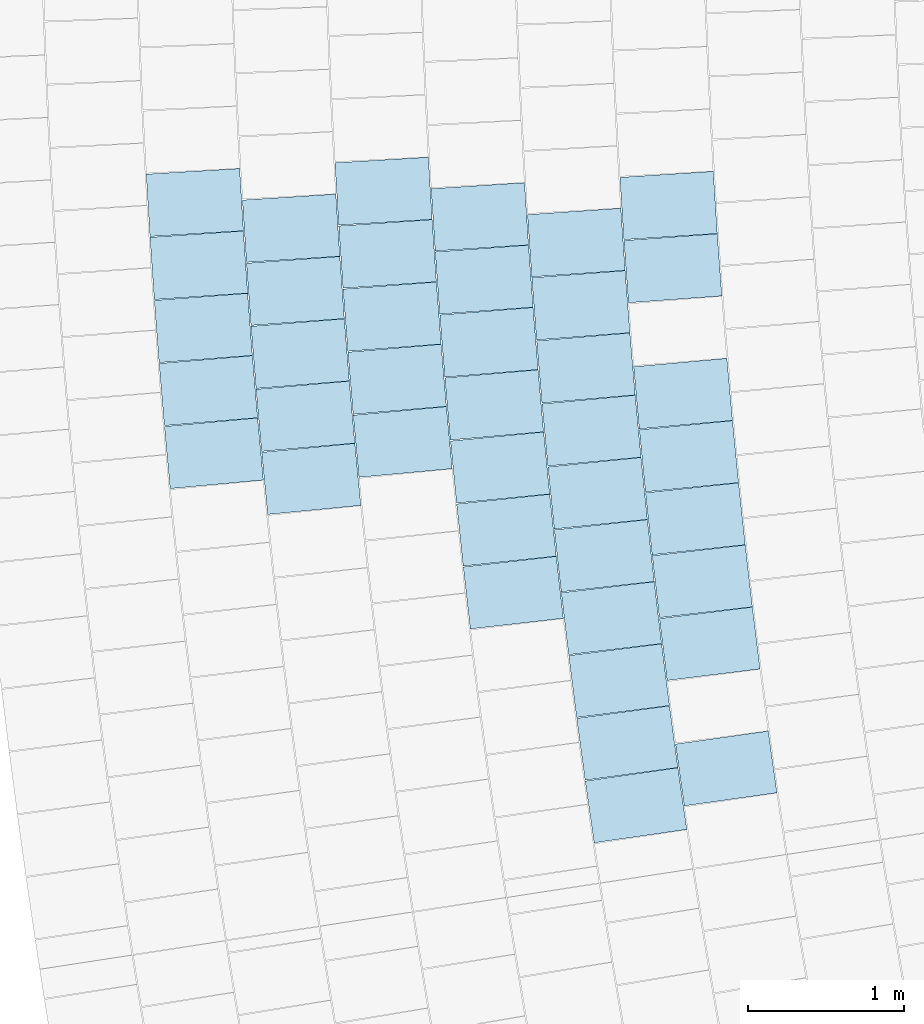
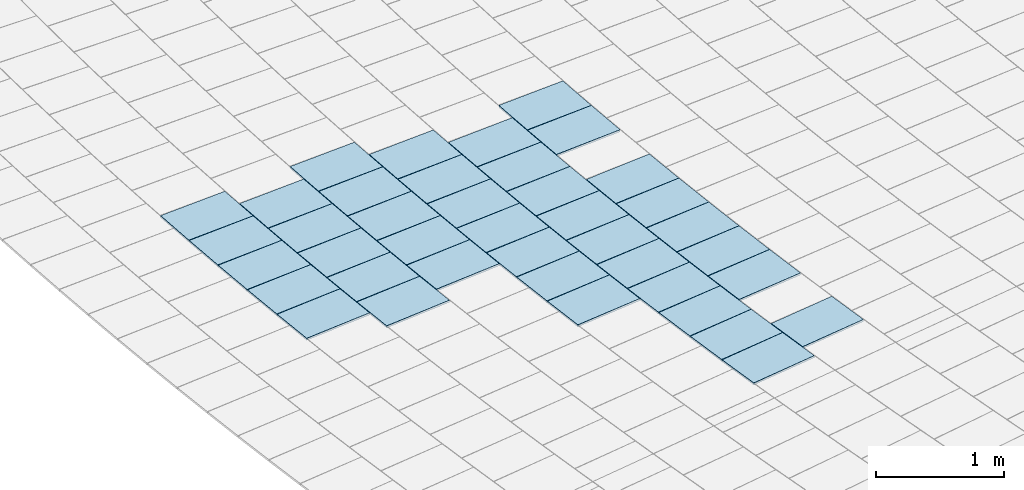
# One storey, part 79 of 438: 40 slabs.
"""IFC2X3 building model written with IfcOpenShell, lengths in millimetres."""

from ifc_helpers import new_model, entity, si_unit, converted_unit, derived_unit, direction, frame, frame_2d, origin, place, context, subcontext, project, spatial, polyline, rectangle, outline, extrude, material, layer, layer_set, layer_usage, type_object, element, save


model = new_model("IFC2X3")

# Units and contexts
model_context = context("Model", 3, precision=0.01, world=origin(), true_north=direction((6.123031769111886e-17, 1.0)))
body_context = subcontext(model_context, "Body", "Model", "MODEL_VIEW")
ifc_project = project(units=[si_unit("LENGTHUNIT", "METRE", prefix="MILLI"), si_unit("AREAUNIT", "SQUARE_METRE"), si_unit("VOLUMEUNIT", "CUBIC_METRE"), converted_unit("PLANEANGLEUNIT", "DEGREE", entity("IfcRatioMeasure", 0.017453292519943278), si_unit("PLANEANGLEUNIT", "RADIAN"), dimensions=[0, 0, 0, 0, 0, 0, 0]), si_unit("MASSUNIT", "GRAM", prefix="KILO"), derived_unit("MASSDENSITYUNIT", [(si_unit("MASSUNIT", "GRAM", prefix="KILO"), 1), (si_unit("LENGTHUNIT", "METRE"), -3)]), derived_unit("MOMENTOFINERTIAUNIT", [(si_unit("LENGTHUNIT", "METRE"), 4)]), si_unit("TIMEUNIT", "SECOND"), si_unit("FREQUENCYUNIT", "HERTZ"), si_unit("THERMODYNAMICTEMPERATUREUNIT", "DEGREE_CELSIUS"), derived_unit("THERMALTRANSMITTANCEUNIT", [(si_unit("MASSUNIT", "GRAM", prefix="KILO"), 1), (si_unit("THERMODYNAMICTEMPERATUREUNIT", "KELVIN"), -1), (si_unit("TIMEUNIT", "SECOND"), -3)]), derived_unit("THERMALCONDUCTANCEUNIT", [(si_unit("MASSUNIT", "GRAM", prefix="KILO"), 1), (si_unit("LENGTHUNIT", "METRE"), 1), (si_unit("THERMODYNAMICTEMPERATUREUNIT", "KELVIN"), -1), (si_unit("TIMEUNIT", "SECOND"), -3)]), derived_unit("VOLUMETRICFLOWRATEUNIT", [(si_unit("LENGTHUNIT", "METRE"), 3), (si_unit("TIMEUNIT", "SECOND"), -1)]), derived_unit("MASSFLOWRATEUNIT", [(si_unit("MASSUNIT", "GRAM", prefix="KILO"), 1), (si_unit("TIMEUNIT", "SECOND"), -1)]), derived_unit("ROTATIONALFREQUENCYUNIT", [(si_unit("TIMEUNIT", "SECOND"), -1)]), si_unit("ELECTRICCURRENTUNIT", "AMPERE"), si_unit("ELECTRICVOLTAGEUNIT", "VOLT"), si_unit("POWERUNIT", "WATT"), converted_unit("FORCEUNIT", "KIP", entity("IfcRatioMeasure", 2.088543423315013e-05), si_unit("FORCEUNIT", "NEWTON"), dimensions=[1, 1, -2, 0, 0, 0, 0]), si_unit("ILLUMINANCEUNIT", "LUX"), si_unit("LUMINOUSFLUXUNIT", "LUMEN"), si_unit("LUMINOUSINTENSITYUNIT", "CANDELA"), derived_unit("USERDEFINED", [(si_unit("MASSUNIT", "GRAM", prefix="KILO"), -1), (si_unit("LENGTHUNIT", "METRE"), -2), (si_unit("TIMEUNIT", "SECOND"), 3), (si_unit("LUMINOUSFLUXUNIT", "LUMEN"), 1)]), derived_unit("USERDEFINED", [(si_unit("MASSUNIT", "GRAM", prefix="KILO"), 1), (si_unit("LENGTHUNIT", "METRE"), 3), (si_unit("TIMEUNIT", "SECOND"), -3), (si_unit("ELECTRICCURRENTUNIT", "AMPERE"), -2)]), derived_unit("USERDEFINED", [(si_unit("LENGTHUNIT", "METRE"), 2), (si_unit("TIMEUNIT", "SECOND"), -2)]), derived_unit("SOUNDPOWERUNIT", [(si_unit("MASSUNIT", "GRAM", prefix="KILO"), 1), (si_unit("LENGTHUNIT", "METRE"), 2), (si_unit("TIMEUNIT", "SECOND"), -3)]), derived_unit("SOUNDPRESSUREUNIT", [(si_unit("MASSUNIT", "GRAM", prefix="KILO"), 1), (si_unit("LENGTHUNIT", "METRE"), -1), (si_unit("TIMEUNIT", "SECOND"), -2)]), derived_unit("LINEARVELOCITYUNIT", [(si_unit("LENGTHUNIT", "METRE"), 1), (si_unit("TIMEUNIT", "SECOND"), -1)]), si_unit("PRESSUREUNIT", "PASCAL"), derived_unit("USERDEFINED", [(si_unit("LENGTHUNIT", "METRE"), -2), (si_unit("MASSUNIT", "GRAM", prefix="KILO"), 1), (si_unit("TIMEUNIT", "SECOND"), -2)]), derived_unit("LINEARFORCEUNIT", [(si_unit("MASSUNIT", "GRAM", prefix="KILO"), 1), (si_unit("LENGTHUNIT", "METRE"), 1), (si_unit("TIMEUNIT", "SECOND"), -2), (si_unit("LENGTHUNIT", "METRE"), -1)]), derived_unit("PLANARFORCEUNIT", [(si_unit("MASSUNIT", "GRAM", prefix="KILO"), 1), (si_unit("LENGTHUNIT", "METRE"), 1), (si_unit("TIMEUNIT", "SECOND"), -2), (si_unit("LENGTHUNIT", "METRE"), -2)]), derived_unit("SPECIFICHEATCAPACITYUNIT", [(si_unit("LENGTHUNIT", "METRE"), 2), (si_unit("TIMEUNIT", "SECOND"), -2), (si_unit("THERMODYNAMICTEMPERATUREUNIT", "KELVIN"), -1)]), derived_unit("VAPORPERMEABILITYUNIT", [(si_unit("TIMEUNIT", "SECOND"), 1), (si_unit("LENGTHUNIT", "METRE"), -1)]), derived_unit("DYNAMICVISCOSITYUNIT", [(si_unit("MASSUNIT", "GRAM", prefix="KILO"), 1), (si_unit("LENGTHUNIT", "METRE"), -1), (si_unit("TIMEUNIT", "SECOND"), -1)]), derived_unit("THERMALEXPANSIONCOEFFICIENTUNIT", [(si_unit("THERMODYNAMICTEMPERATUREUNIT", "KELVIN"), -1)])], contexts=[model_context])

# Site, building, storey
site_placement = place(None, frame((0.0, 0.0, 0.0), z_axis=(0.0, 0.0, 1.0), x_axis=(0.8191520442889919, 0.5735764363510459, 0.0)))
site = spatial("IfcSite", under=ifc_project, at=site_placement, Name="Default", CompositionType="ELEMENT")
building_placement = place(site_placement, origin())
building = spatial("IfcBuilding", under=site, at=building_placement, CompositionType="ELEMENT")
storey_placement = place(building_placement, origin())
storey = spatial("IfcBuildingStorey", under=building, at=storey_placement, Name="PLAN", CompositionType="ELEMENT", Elevation=0.0)

# Slabs
ifc_material = material(Name="Paint-01")
ifc_layer = layer(ifc_material, 20.00000000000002)
ifc_layer_set = layer_set([ifc_layer], Name="Floor:Slab-179:1000")
ifc_layer_usage = layer_usage(ifc_layer_set, "AXIS3", "POSITIVE", 0.0)
slab_type = type_object("IfcSlabType", Name="Floor:Slab-179:1000", PredefinedType="FLOOR", material=ifc_layer_set)
slab_1_placement = place(storey_placement, origin())
element("IfcSlab", 1, at=slab_1_placement, inside=storey, type_object=slab_type, material=ifc_layer_usage, Name="Floor:Slab-179:1000", ObjectType="Floor:Slab-179:1000", PredefinedType="FLOOR", context=body_context, shape_type="SweptSolid", body=[
    extrude(outline(polyline([(-300.0, -200.00000294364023), (299.9999976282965, -200.00000294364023), (300.0, 200.00000294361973), (-299.9999976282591, 200.00000294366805), (-300.0, -200.00000294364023)])), frame((-83724.913249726, -41291.05084854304, 520.0), z_axis=(0.0, 0.0, -1.0), x_axis=(0.852121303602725, -0.523344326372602, 0.0)), (0.0, 0.0, 1.0), 20.000000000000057),
])
slab_2_placement = place(storey_placement, origin())
element("IfcSlab", 2, at=slab_2_placement, inside=storey, type_object=slab_type, material=ifc_layer_usage, Name="Floor:Slab-179:1000", ObjectType="Floor:Slab-179:1000", PredefinedType="FLOOR", context=body_context, shape_type="SweptSolid", body=[
    extrude(outline(polyline([(-300.0, -200.00000294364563), (299.9999976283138, -200.00000294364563), (300.0, 200.00000294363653), (-299.9999976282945, 200.00000294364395), (-300.0, -200.00000294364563)])), frame((-82693.84647236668, -41924.297483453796, 520.0), z_axis=(0.0, 0.0, -1.0), x_axis=(0.8521213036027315, -0.5233443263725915, 0.0)), (0.0, 0.0, 1.0), 20.000000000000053),
])
slab_3_placement = place(storey_placement, origin())
element("IfcSlab", 3, at=slab_3_placement, inside=storey, type_object=slab_type, material=ifc_layer_usage, Name="Floor:Slab-179:1000", ObjectType="Floor:Slab-179:1000", PredefinedType="FLOOR", context=body_context, shape_type="SweptSolid", body=[
    extrude(outline(polyline([(-299.9999976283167, -200.00000294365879), (300.0, -200.00000294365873), (299.9999976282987, 200.0000029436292), (-300.0, 200.00000294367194), (-299.9999976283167, -200.00000294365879)])), frame((-81252.21357320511, -43045.88529153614, 520.0), z_axis=(0.0, 0.0, -1.0), x_axis=(0.854312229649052, -0.5197601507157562, 0.0)), (0.0, 0.0, 1.0), 20.000000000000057),
])
slab_4_placement = place(storey_placement, origin())
element("IfcSlab", 4, at=slab_4_placement, inside=storey, type_object=slab_type, material=ifc_layer_usage, Name="Floor:Slab-179:1000", ObjectType="Floor:Slab-179:1000", PredefinedType="FLOOR", context=body_context, shape_type="SweptSolid", body=[
    extrude(outline(polyline([(-299.99999762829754, -200.0000029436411), (300.0, -200.00000294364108), (299.9999976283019, 200.00000294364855), (-300.0, 200.00000294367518), (-299.99999762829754, -200.0000029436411)])), frame((-81459.97945185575, -43390.63624692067, 520.0), z_axis=(0.0, 0.0, -1.0), x_axis=(0.8586488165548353, -0.5125643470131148, 0.0)), (0.0, 0.0, 1.0), 20.000000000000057),
])
slab_5_placement = place(storey_placement, origin())
element("IfcSlab", 5, at=slab_5_placement, inside=storey, type_object=slab_type, material=ifc_layer_usage, Name="Floor:Slab-179:1000", ObjectType="Floor:Slab-179:1000", PredefinedType="FLOOR", context=body_context, shape_type="SweptSolid", body=[
    extrude(outline(polyline([(-299.99999762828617, -200.0000029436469), (300.0, -200.00000294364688), (299.99999762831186, 200.00000294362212), (-300.0, 200.00000294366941), (-299.99999762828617, -200.0000029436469)])), frame((-81866.7855290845, -44085.313802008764, 520.0), z_axis=(0.0, 0.0, -1.0), x_axis=(0.8671398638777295, -0.49806471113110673, 0.0)), (0.0, 0.0, 1.0), 20.000000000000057),
])
slab_6_placement = place(storey_placement, origin())
element("IfcSlab", 6, at=slab_6_placement, inside=storey, type_object=slab_type, material=ifc_layer_usage, Name="Floor:Slab-179:1000", ObjectType="Floor:Slab-179:1000", PredefinedType="FLOOR", context=body_context, shape_type="SweptSolid", body=[
    extrude(outline(polyline([(-299.9999976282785, -200.00000294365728), (300.0, -200.00000294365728), (299.99999762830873, 200.00000294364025), (-300.0, 200.00000294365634), (-299.9999976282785, -200.00000294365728)])), frame((-82065.79701302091, -44435.19136749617, 520.0), z_axis=(0.0, 0.0, -1.0), x_axis=(0.8712937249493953, -0.4907619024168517, 0.0)), (0.0, 0.0, 1.0), 20.000000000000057),
])
slab_7_placement = place(storey_placement, origin())
element("IfcSlab", 7, at=slab_7_placement, inside=storey, type_object=slab_type, material=ifc_layer_usage, Name="Floor:Slab-179:1000", ObjectType="Floor:Slab-179:1000", PredefinedType="FLOOR", context=body_context, shape_type="SweptSolid", body=[
    extrude(outline(polyline([(-299.9999976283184, -200.0000029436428), (300.0, -200.00000294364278), (299.9999976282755, 200.0000029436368), (-300.0, 200.00000294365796), (-299.9999976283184, -200.0000029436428)])), frame((-82261.86199505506, -44786.72856949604, 520.0), z_axis=(0.0, 0.0, -1.0), x_axis=(0.8753860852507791, -0.48342445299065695, 0.0)), (0.0, 0.0, 1.0), 19.999999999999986),
])
slab_8_placement = place(storey_placement, origin())
element("IfcSlab", 8, at=slab_8_placement, inside=storey, type_object=slab_type, material=ifc_layer_usage, Name="Floor:Slab-179:1000", ObjectType="Floor:Slab-179:1000", PredefinedType="FLOOR", context=body_context, shape_type="SweptSolid", body=[
    extrude(outline(polyline([(-299.999997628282, -200.00000294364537), (300.0, -200.00000294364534), (299.99999762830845, 200.0000029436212), (-300.0, 200.0000029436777), (-299.999997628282, -200.00000294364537)])), frame((-82454.9666358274, -45139.9005945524, 520.0), z_axis=(0.0, 0.0, -1.0), x_axis=(0.8794166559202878, -0.47605288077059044, 0.0)), (0.0, 0.0, 1.0), 20.000000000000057),
])
slab_9_placement = place(storey_placement, origin())
element("IfcSlab", 9, at=slab_9_placement, inside=storey, type_object=slab_type, material=ifc_layer_usage, Name="Floor:Slab-179:1000", ObjectType="Floor:Slab-179:1000", PredefinedType="FLOOR", context=body_context, shape_type="SweptSolid", body=[
    extrude(outline(polyline([(-299.99999762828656, -200.00000294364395), (300.0, -200.00000294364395), (299.999997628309, 200.00000294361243), (-300.0, 200.00000294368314), (-299.99999762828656, -200.00000294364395)])), frame((-82645.09730493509, -45494.68251381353, 520.0), z_axis=(0.0, 0.0, -1.0), x_axis=(0.883385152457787, -0.4686477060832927, 0.0)), (0.0, 0.0, 1.0), 20.000000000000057),
])
slab_10_placement = place(storey_placement, origin())
element("IfcSlab", 10, at=slab_10_placement, inside=storey, type_object=slab_type, material=ifc_layer_usage, Name="Floor:Slab-179:1000", ObjectType="Floor:Slab-179:1000", PredefinedType="FLOOR", context=body_context, shape_type="SweptSolid", body=[
    extrude(outline(polyline([(-299.99999762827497, -200.00000294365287), (300.0, -200.00000294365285), (299.9999976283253, 200.000002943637), (-300.0, 200.00000294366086), (-299.99999762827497, -200.00000294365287)])), frame((-83016.38325709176, -46208.97575313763, 520.0), z_axis=(0.0, 0.0, -1.0), x_axis=(0.8911348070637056, -0.4537386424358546, 0.0)), (0.0, 0.0, 1.0), 20.000000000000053),
])
slab_11_placement = place(storey_placement, origin())
element("IfcSlab", 11, at=slab_11_placement, inside=storey, type_object=slab_type, material=ifc_layer_usage, Name="Floor:Slab-179:1000", ObjectType="Floor:Slab-179:1000", PredefinedType="FLOOR", context=body_context, shape_type="SweptSolid", body=[
    extrude(outline(polyline([(-299.99999762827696, -200.0000029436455), (300.0, -200.00000294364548), (299.9999976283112, 200.00000294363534), (-300.0, 200.00000294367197), (-299.99999762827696, -200.0000029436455)])), frame((-82078.34799931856, -43246.94226794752, 520.0), z_axis=(0.0, 0.0, -1.0), x_axis=(0.8606870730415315, -0.5091343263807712, 0.0)), (0.0, 0.0, 1.0), 19.99999999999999),
])
slab_12_placement = place(storey_placement, origin())
element("IfcSlab", 12, at=slab_12_placement, inside=storey, type_object=slab_type, material=ifc_layer_usage, Name="Floor:Slab-179:1000", ObjectType="Floor:Slab-179:1000", PredefinedType="FLOOR", context=body_context, shape_type="SweptSolid", body=[
    extrude(outline(polyline([(-299.99999762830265, -200.00000294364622), (300.0, -200.0000029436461), (299.99999762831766, 200.00000294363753), (-300.0, 200.0000029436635), (-299.99999762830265, -200.00000294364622)])), frame((-82281.8284240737, -43594.20327946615, 520.0), z_axis=(0.0, 0.0, -1.0), x_axis=(0.864881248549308, -0.5019765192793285, 0.0)), (0.0, 0.0, 1.0), 20.000000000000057),
])
slab_13_placement = place(storey_placement, origin())
element("IfcSlab", 13, at=slab_13_placement, inside=storey, type_object=slab_type, material=ifc_layer_usage, Name="Floor:Slab-179:1000", ObjectType="Floor:Slab-179:1000", PredefinedType="FLOOR", context=body_context, shape_type="SweptSolid", body=[
    extrude(outline(polyline([(-299.9999976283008, -200.00000294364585), (300.0, -200.00000294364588), (299.9999976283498, 200.0000029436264), (-300.0, 200.0000029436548), (-299.9999976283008, -200.00000294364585)])), frame((-81871.99368882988, -42901.38128646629, 520.0), z_axis=(0.0, 0.0, -1.0), x_axis=(0.8564336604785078, -0.5162570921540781, 0.0)), (0.0, 0.0, 1.0), 19.999999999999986),
])
slab_14_placement = place(storey_placement, origin())
element("IfcSlab", 14, at=slab_14_placement, inside=storey, type_object=slab_type, material=ifc_layer_usage, Name="Floor:Slab-179:1000", ObjectType="Floor:Slab-179:1000", PredefinedType="FLOOR", context=body_context, shape_type="SweptSolid", body=[
    extrude(outline(polyline([(-299.9999976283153, -200.00000294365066), (300.0, -200.00000294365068), (299.99999762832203, 200.0000029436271), (-300.0, 200.0000029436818), (-299.9999976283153, -200.00000294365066)])), frame((-82680.11179672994, -44293.729675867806, 520.0), z_axis=(0.0, 0.0, -1.0), x_axis=(0.8730907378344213, -0.48755775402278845, 0.0)), (0.0, 0.0, 1.0), 20.000000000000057),
])
slab_15_placement = place(storey_placement, origin())
element("IfcSlab", 15, at=slab_15_placement, inside=storey, type_object=slab_type, material=ifc_layer_usage, Name="Floor:Slab-179:1000", ObjectType="Floor:Slab-179:1000", PredefinedType="FLOOR", context=body_context, shape_type="SweptSolid", body=[
    extrude(outline(polyline([(-299.9999976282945, -200.00000294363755), (300.0, -200.00000294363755), (299.9999976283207, 200.00000294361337), (-300.0, 200.0000029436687), (-299.9999976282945, -200.00000294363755)])), frame((-82874.88733265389, -44645.94691562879, 520.0), z_axis=(0.0, 0.0, -1.0), x_axis=(0.8771054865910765, -0.4802977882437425, 0.0)), (0.0, 0.0, 1.0), 20.000000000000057),
])
slab_16_placement = place(storey_placement, origin())
element("IfcSlab", 16, at=slab_16_placement, inside=storey, type_object=slab_type, material=ifc_layer_usage, Name="Floor:Slab-179:1000", ObjectType="Floor:Slab-179:1000", PredefinedType="FLOOR", context=body_context, shape_type="SweptSolid", body=[
    extrude(outline(polyline([(-299.999997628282, -200.0000029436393), (300.0, -200.0000029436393), (299.99999762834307, 200.0000029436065), (-300.0, 200.00000294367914), (-299.999997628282, -200.0000029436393)])), frame((-83066.7341607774, -44999.76789849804, 520.0), z_axis=(0.0, 0.0, -1.0), x_axis=(0.881059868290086, -0.4730047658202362, 0.0)), (0.0, 0.0, 1.0), 19.999999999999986),
])
slab_17_placement = place(storey_placement, origin())
element("IfcSlab", 17, at=slab_17_placement, inside=storey, type_object=slab_type, material=ifc_layer_usage, Name="Floor:Slab-179:1000", ObjectType="Floor:Slab-179:1000", PredefinedType="FLOOR", context=body_context, shape_type="SweptSolid", body=[
    extrude(outline(polyline([(-299.99999762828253, -200.00000294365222), (300.0, -200.00000294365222), (299.9999976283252, 200.0000029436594), (-300.0, 200.00000294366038), (-299.99999762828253, -200.00000294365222)])), frame((-83441.58908043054, -45712.12357750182, 520.0), z_axis=(0.0, 0.0, -1.0), x_axis=(0.8887864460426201, -0.45832156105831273, 0.0)), (0.0, 0.0, 1.0), 20.000000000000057),
])
slab_18_placement = place(storey_placement, origin())
element("IfcSlab", 18, at=slab_18_placement, inside=storey, type_object=slab_type, material=ifc_layer_usage, Name="Floor:Slab-179:1000", ObjectType="Floor:Slab-179:1000", PredefinedType="FLOOR", context=body_context, shape_type="SweptSolid", body=[
    extrude(outline(polyline([(-299.99999762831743, -200.00000294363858), (300.0, -200.0000029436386), (299.9999976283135, 200.00000294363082), (-300.0, 200.00000294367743), (-299.99999762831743, -200.00000294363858)])), frame((-83624.57137245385, -46070.60924553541, 520.0), z_axis=(0.0, 0.0, -1.0), x_axis=(0.8925581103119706, -0.4509323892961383, 0.0)), (0.0, 0.0, 1.0), 20.000000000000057),
])
slab_19_placement = place(storey_placement, origin())
element("IfcSlab", 19, at=slab_19_placement, inside=storey, type_object=slab_type, material=ifc_layer_usage, Name="Floor:Slab-179:1000", ObjectType="Floor:Slab-179:1000", PredefinedType="FLOOR", context=body_context, shape_type="SweptSolid", body=[
    extrude(outline(polyline([(-299.999997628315, -200.00000294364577), (300.0, -200.00000294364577), (299.99999762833, 200.0000029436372), (-300.0, 200.00000294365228), (-299.999997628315, -200.00000294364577)])), frame((-82482.42095849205, -43943.14042067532, 520.0), z_axis=(0.0, 0.0, -1.0), x_axis=(0.8690158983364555, -0.49478416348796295, 0.0)), (0.0, 0.0, 1.0), 20.000000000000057),
])
slab_20_placement = place(storey_placement, origin())
element("IfcSlab", 20, at=slab_20_placement, inside=storey, type_object=slab_type, material=ifc_layer_usage, Name="Floor:Slab-179:1000", ObjectType="Floor:Slab-179:1000", PredefinedType="FLOOR", context=body_context, shape_type="SweptSolid", body=[
    extrude(outline(polyline([(-299.99999762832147, -200.00000294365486), (300.0, -200.00000294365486), (299.9999976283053, 200.0000029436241), (-300.0, 200.00000294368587), (-299.99999762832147, -200.00000294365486)])), frame((-83255.6390771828, -45355.168272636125, 520.0), z_axis=(0.0, 0.0, -1.0), x_axis=(0.8849536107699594, -0.4656791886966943, 0.0)), (0.0, 0.0, 1.0), 19.999999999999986),
])
slab_21_placement = place(storey_placement, origin())
element("IfcSlab", 21, at=slab_21_placement, inside=storey, type_object=slab_type, material=ifc_layer_usage, Name="Floor:Slab-179:1000", ObjectType="Floor:Slab-179:1000", PredefinedType="FLOOR", context=body_context, shape_type="SweptSolid", body=[
    extrude(outline(polyline([(-299.9999976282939, -200.00000294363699), (300.0, -200.00000294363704), (299.9999976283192, 200.0000029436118), (-300.0, 200.00000294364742), (-299.9999976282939, -200.00000294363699)])), frame((-82491.07852706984, -42757.26093479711, 520.0), z_axis=(0.0, 0.0, -1.0), x_axis=(0.8584886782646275, -0.5128325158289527, 0.0)), (0.0, 0.0, 1.0), 20.000000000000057),
])
slab_22_placement = place(storey_placement, origin())
element("IfcSlab", 22, at=slab_22_placement, inside=storey, type_object=slab_type, material=ifc_layer_usage, Name="Floor:Slab-179:1000", ObjectType="Floor:Slab-179:1000", PredefinedType="FLOOR", context=body_context, shape_type="SweptSolid", body=[
    extrude(outline(polyline([(-299.99999762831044, -200.00000294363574), (300.0, -200.00000294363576), (299.99999762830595, 200.00000294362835), (-300.0, 200.00000294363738), (-299.99999762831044, -200.00000294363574)])), frame((-82283.2730316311, -42412.606598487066, 520.0), z_axis=(0.0, 0.0, -1.0), x_axis=(0.8542581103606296, -0.5198490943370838, 0.0)), (0.0, 0.0, 1.0), 20.000000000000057),
])
slab_23_placement = place(storey_placement, origin())
element("IfcSlab", 23, at=slab_23_placement, inside=storey, type_object=slab_type, material=ifc_layer_usage, Name="Floor:Slab-179:1000", ObjectType="Floor:Slab-179:1000", PredefinedType="FLOOR", context=body_context, shape_type="SweptSolid", body=[
    extrude(rectangle(XDim=599.9993183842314, YDim=399.99955322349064, at=frame_2d((2.1600499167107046e-12, 3.751665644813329e-12), x_axis=(1.0, 0.0))), frame((-82898.21825007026, -43451.07813666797, 520.0), z_axis=(0.0, 0.0, -1.0), x_axis=(0.86602540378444, -0.4999999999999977, 0.0)), (0.0, 0.0, 1.0), 20.000000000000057),
])
slab_24_placement = place(storey_placement, origin())
element("IfcSlab", 24, at=slab_24_placement, inside=storey, type_object=slab_type, material=ifc_layer_usage, Name="Floor:Slab-179:1000", ObjectType="Floor:Slab-179:1000", PredefinedType="FLOOR", context=body_context, shape_type="SweptSolid", body=[
    extrude(outline(polyline([(-299.9999976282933, -200.00000294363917), (300.0, -200.00000294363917), (299.9999976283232, 200.00000294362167), (-300.0, 200.0000029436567), (-299.9999976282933, -200.00000294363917)])), frame((-82696.05321664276, -43103.60630015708, 520.0), z_axis=(0.0, 0.0, -1.0), x_axis=(0.8626616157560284, -0.5057815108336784, 0.0)), (0.0, 0.0, 1.0), 20.000000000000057),
])
slab_25_placement = place(storey_placement, origin())
element("IfcSlab", 25, at=slab_25_placement, inside=storey, type_object=slab_type, material=ifc_layer_usage, Name="Floor:Slab-179:1000", ObjectType="Floor:Slab-179:1000", PredefinedType="FLOOR", context=body_context, shape_type="SweptSolid", body=[
    extrude(outline(polyline([(-299.9999976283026, -200.000002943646), (300.0, -200.0000029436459), (299.99999762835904, 200.0000029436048), (-300.0, 200.00000294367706), (-299.9999976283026, -200.000002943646)])), frame((-83293.85580618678, -44152.55551039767, 520.0), z_axis=(0.0, 0.0, -1.0), x_axis=(0.8748318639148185, -0.48442668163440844, 0.0)), (0.0, 0.0, 1.0), 20.000000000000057),
])
slab_26_placement = place(storey_placement, origin())
element("IfcSlab", 26, at=slab_26_placement, inside=storey, type_object=slab_type, material=ifc_layer_usage, Name="Floor:Slab-179:1000", ObjectType="Floor:Slab-179:1000", PredefinedType="FLOOR", context=body_context, shape_type="SweptSolid", body=[
    extrude(outline(polyline([(-299.9999976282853, -200.00000294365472), (300.0, -200.00000294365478), (299.9999976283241, 200.00000294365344), (-300.0, 200.00000294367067), (-299.9999976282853, -200.00000294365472)])), frame((-83487.3715867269, -44505.43137830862, 520.0), z_axis=(0.0, 0.0, -1.0), x_axis=(0.8787715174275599, -0.47724272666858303, 0.0)), (0.0, 0.0, 1.0), 20.000000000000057),
])
slab_27_placement = place(storey_placement, origin())
element("IfcSlab", 27, at=slab_27_placement, inside=storey, type_object=slab_type, material=ifc_layer_usage, Name="Floor:Slab-179:1000", ObjectType="Floor:Slab-179:1000", PredefinedType="FLOOR", context=body_context, shape_type="SweptSolid", body=[
    extrude(outline(polyline([(-299.9999976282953, -200.0000029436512), (300.0, -200.00000294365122), (299.99999762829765, 200.00000294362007), (-300.0, 200.00000294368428), (-299.9999976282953, -200.0000029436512)])), frame((-83097.45532927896, -43801.27700530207, 520.0), z_axis=(0.0, 0.0, -1.0), x_axis=(0.8708334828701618, -0.4915781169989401, 0.0)), (0.0, 0.0, 1.0), 20.000000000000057),
])
slab_28_placement = place(storey_placement, origin())
element("IfcSlab", 28, at=slab_28_placement, inside=storey, type_object=slab_type, material=ifc_layer_usage, Name="Floor:Slab-179:1000", ObjectType="Floor:Slab-179:1000", PredefinedType="FLOOR", context=body_context, shape_type="SweptSolid", body=[
    extrude(outline(polyline([(-299.99999762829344, -200.00000294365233), (300.0, -200.00000294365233), (299.99999762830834, 200.00000294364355), (-300.0, 200.00000294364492), (-299.99999762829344, -200.00000294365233)])), frame((-83109.49219837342, -42613.50743855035, 520.0), z_axis=(0.0, 0.0, -1.0), x_axis=(0.8604801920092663, -0.5094838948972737, 0.0)), (0.0, 0.0, 1.0), 20.000000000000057),
])
slab_29_placement = place(storey_placement, origin())
element("IfcSlab", 29, at=slab_29_placement, inside=storey, type_object=slab_type, material=ifc_layer_usage, Name="Floor:Slab-179:1000", ObjectType="Floor:Slab-179:1000", PredefinedType="FLOOR", context=body_context, shape_type="SweptSolid", body=[
    extrude(outline(polyline([(-299.9999976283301, -200.00000294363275), (300.0, -200.00000294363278), (299.9999976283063, 200.0000029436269), (-300.0, 200.00000294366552), (-299.9999976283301, -200.00000294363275)])), frame((-82903.06379154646, -42268.061498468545, 520.0), z_axis=(0.0, 0.0, -1.0), x_axis=(0.8563287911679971, -0.5164310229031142, 0.0)), (0.0, 0.0, 1.0), 20.000000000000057),
])
slab_30_placement = place(storey_placement, origin())
element("IfcSlab", 30, at=slab_30_placement, inside=storey, type_object=slab_type, material=ifc_layer_usage, Name="Floor:Slab-179:1000", ObjectType="Floor:Slab-179:1000", PredefinedType="FLOOR", context=body_context, shape_type="SweptSolid", body=[
    extrude(outline(polyline([(-299.99999762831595, -200.00000294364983), (300.0, -200.0000029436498), (299.9999976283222, 200.00000294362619), (-300.0, 200.00000294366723), (-299.99999762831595, -200.00000294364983)])), frame((-83313.11817246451, -42960.612678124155, 520.0), z_axis=(0.0, 0.0, -1.0), x_axis=(0.8645752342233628, -0.5025033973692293, 0.0)), (0.0, 0.0, 1.0), 19.999999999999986),
])
slab_31_placement = place(storey_placement, origin())
element("IfcSlab", 31, at=slab_31_placement, inside=storey, type_object=slab_type, material=ifc_layer_usage, Name="Floor:Slab-179:1000", ObjectType="Floor:Slab-179:1000", PredefinedType="FLOOR", context=body_context, shape_type="SweptSolid", body=[
    extrude(outline(polyline([(-299.99999762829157, -200.0000029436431), (300.0, -200.00000294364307), (299.99999762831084, 200.00000294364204), (-300.0, 200.00000294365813), (-299.99999762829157, -200.0000029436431)])), frame((-83513.92837698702, -43309.354482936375, 520.0), z_axis=(0.0, 0.0, -1.0), x_axis=(0.8686136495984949, -0.4954899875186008, 0.0)), (0.0, 0.0, 1.0), 20.000000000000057),
])
slab_32_placement = place(storey_placement, origin())
element("IfcSlab", 32, at=slab_32_placement, inside=storey, type_object=slab_type, material=ifc_layer_usage, Name="Floor:Slab-179:1000", ObjectType="Floor:Slab-179:1000", PredefinedType="FLOOR", context=body_context, shape_type="SweptSolid", body=[
    extrude(outline(polyline([(-299.9999976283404, -200.00000294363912), (300.0, -200.00000294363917), (299.9999976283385, 200.00000294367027), (-300.0, 200.0000029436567), (-299.9999976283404, -200.00000294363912)])), frame((-83727.25772508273, -42470.10493670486, 520.0), z_axis=(0.0, 0.0, -1.0), x_axis=(0.8624109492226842, -0.5062088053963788, 0.0)), (0.0, 0.0, 1.0), 19.99999999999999),
])
slab_33_placement = place(storey_placement, origin())
element("IfcSlab", 33, at=slab_33_placement, inside=storey, type_object=slab_type, material=ifc_layer_usage, Name="Floor:Slab-179:1000", ObjectType="Floor:Slab-179:1000", PredefinedType="FLOOR", context=body_context, shape_type="SweptSolid", body=[
    extrude(outline(polyline([(-299.99999762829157, -200.00000294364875), (300.0, -200.00000294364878), (299.99999762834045, 200.00000294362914), (-300.0, 200.0000029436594), (-299.99999762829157, -200.00000294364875)])), frame((-83314.33284045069, -41779.32945594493, 520.0), z_axis=(0.0, 0.0, -1.0), x_axis=(0.8542066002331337, -0.5199337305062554, 0.0)), (0.0, 0.0, 1.0), 20.000000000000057),
])
slab_34_placement = place(storey_placement, origin())
element("IfcSlab", 34, at=slab_34_placement, inside=storey, type_object=slab_type, material=ifc_layer_usage, Name="Floor:Slab-179:1000", ObjectType="Floor:Slab-179:1000", PredefinedType="FLOOR", context=body_context, shape_type="SweptSolid", body=[
    extrude(rectangle(XDim=599.9998001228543, YDim=399.9998743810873, at=frame_2d((-5.343281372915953e-12, 8.08597633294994e-12), x_axis=(1.0, 0.0))), frame((-83929.58370627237, -42817.65484690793, 520.0), z_axis=(0.0, 0.0, -1.0), x_axis=(0.8660254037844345, -0.5000000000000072, 0.0)), (0.0, 0.0, 1.0), 20.000000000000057),
])
slab_35_placement = place(storey_placement, origin())
element("IfcSlab", 35, at=slab_35_placement, inside=storey, type_object=slab_type, material=ifc_layer_usage, Name="Floor:Slab-179:1000", ObjectType="Floor:Slab-179:1000", PredefinedType="FLOOR", context=body_context, shape_type="SweptSolid", body=[
    extrude(outline(polyline([(-299.99999762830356, -200.00000294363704), (300.0, -200.00000294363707), (299.99999762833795, 200.00000294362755), (-300.0, 200.00000294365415), (-299.99999762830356, -200.00000294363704)])), frame((-84129.08456954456, -43167.39462703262, 520.0), z_axis=(0.0, 0.0, -1.0), x_axis=(0.8703947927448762, -0.49235445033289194, 0.0)), (0.0, 0.0, 1.0), 19.999999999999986),
])
slab_36_placement = place(storey_placement, origin())
element("IfcSlab", 36, at=slab_36_placement, inside=storey, type_object=slab_type, material=ifc_layer_usage, Name="Floor:Slab-179:1000", ObjectType="Floor:Slab-179:1000", PredefinedType="FLOOR", context=body_context, shape_type="SweptSolid", body=[
    extrude(outline(polyline([(-299.99999762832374, -200.00000294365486), (300.0, -200.00000294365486), (299.99999762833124, 200.0000029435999), (-300.0, 200.0000029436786), (-299.99999762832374, -200.00000294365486)])), frame((-83522.17600531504, -42123.89184175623, 520.0), z_axis=(0.0, 0.0, -1.0), x_axis=(0.8583362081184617, -0.5130876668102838, 0.0)), (0.0, 0.0, 1.0), 20.000000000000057),
])
slab_37_placement = place(storey_placement, origin())
element("IfcSlab", 37, at=slab_37_placement, inside=storey, type_object=slab_type, material=ifc_layer_usage, Name="Floor:Slab-179:1000", ObjectType="Floor:Slab-179:1000", PredefinedType="FLOOR", context=body_context, shape_type="SweptSolid", body=[
    extrude(outline(polyline([(-299.9999976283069, -200.0000029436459), (300.0, -200.00000294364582), (299.9999976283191, 200.00000294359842), (-300.0, 200.0000029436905), (-299.9999976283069, -200.0000029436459)])), frame((-84140.6326341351, -41980.081587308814, 520.0), z_axis=(0.0, 0.0, -1.0), x_axis=(0.8602830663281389, -0.5098166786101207, 0.0)), (0.0, 0.0, 1.0), 19.99999999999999),
])
slab_38_placement = place(storey_placement, origin())
element("IfcSlab", 38, at=slab_38_placement, inside=storey, type_object=slab_type, material=ifc_layer_usage, Name="Floor:Slab-179:1000", ObjectType="Floor:Slab-179:1000", PredefinedType="FLOOR", context=body_context, shape_type="SweptSolid", body=[
    extrude(outline(polyline([(-299.99999762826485, -200.00000294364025), (300.0, -200.00000294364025), (299.9999976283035, 200.0000029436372), (-300.0, 200.00000294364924), (-299.99999762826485, -200.00000294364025)])), frame((-83934.13372152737, -41634.745205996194, 520.0), z_axis=(0.0, 0.0, -1.0), x_axis=(0.8562289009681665, -0.5165966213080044, 0.0)), (0.0, 0.0, 1.0), 20.000000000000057),
])
slab_39_placement = place(storey_placement, origin())
element("IfcSlab", 39, at=slab_39_placement, inside=storey, type_object=slab_type, material=ifc_layer_usage, Name="Floor:Slab-179:1000", ObjectType="Floor:Slab-179:1000", PredefinedType="FLOOR", context=body_context, shape_type="SweptSolid", body=[
    extrude(outline(polyline([(-299.9999976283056, -200.00000294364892), (300.0, -200.00000294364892), (299.9999976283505, 200.00000294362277), (-300.0, 200.0000029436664), (-299.9999976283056, -200.00000294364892)])), frame((-84344.39710121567, -42327.03844215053, 520.0), z_axis=(0.0, 0.0, -1.0), x_axis=(0.8642835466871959, -0.503004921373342, 0.0)), (0.0, 0.0, 1.0), 19.999999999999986),
])
slab_40_placement = place(storey_placement, origin())
element("IfcSlab", 40, at=slab_40_placement, inside=storey, type_object=slab_type, material=ifc_layer_usage, Name="Floor:Slab-179:1000", ObjectType="Floor:Slab-179:1000", PredefinedType="FLOOR", context=body_context, shape_type="SweptSolid", body=[
    extrude(outline(polyline([(-299.9999976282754, -200.0000029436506), (300.0, -200.00000294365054), (299.99999762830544, 200.0000029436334), (-300.0, 200.00000294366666), (-299.9999976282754, -200.0000029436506)])), frame((-84545.41440707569, -42675.59411906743, 520.0), z_axis=(0.0, 0.0, -1.0), x_axis=(0.8682300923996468, -0.496161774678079, 0.0)), (0.0, 0.0, 1.0), 20.000000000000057),
])

save(model, "model.ifc")
